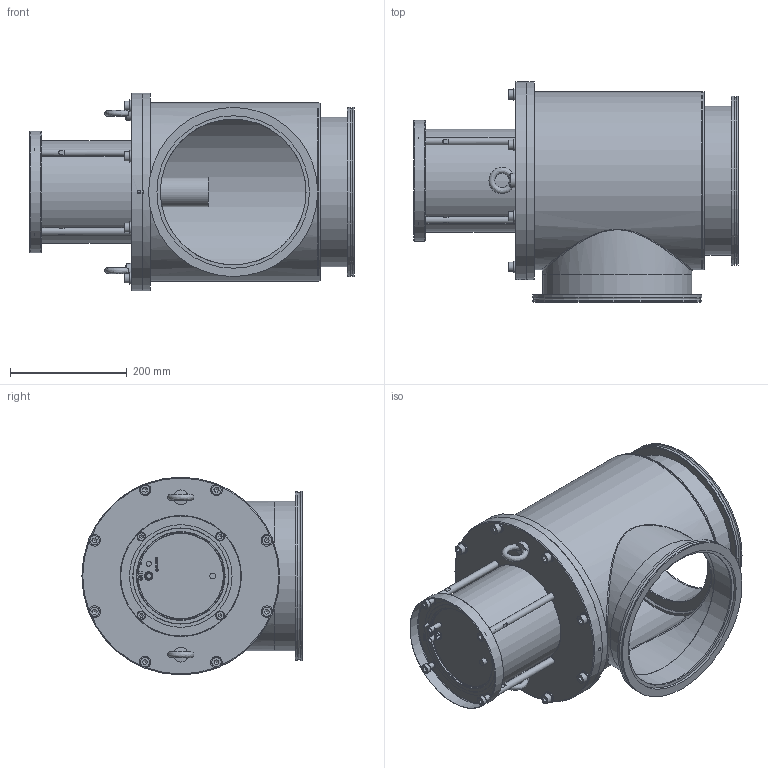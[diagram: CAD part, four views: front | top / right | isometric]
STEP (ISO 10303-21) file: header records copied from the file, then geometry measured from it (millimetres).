
FILE_DESCRIPTION(/* description */ (''),/* implementation_level */ '2;1');
FILE_NAME(/* name */ '1105203815_203.stp',/* time_stamp */ '2019-04-08T07:34:10+02:00',/* author */ (''),/* organization */ (''),/* preprocessor_version */ 'ST-DEVELOPER v16',/* originating_system */ 'SIEMENS PLM Software NX 11.0',/* authorisation */ '');
FILE_SCHEMA (('AP203_CONFIGURATION_CONTROLLED_3D_DESIGN_OF_MECHANICAL_PARTS_AND_ASSEMBLIES_MIM_LF { 1 0 10303 403 2 1 2}'));
Length unit declared in the file: millimetre
Products named in the file (17): 499057; 499005; 499031; 499053; 499064; 499042; 377229; 439333; 439305; 714822; n-6131-415.1; 395410; n-6033-005.1; 224833.1; 498998; 498993_MODEL; 791433
Assembly tree (38 placements, depth 4):
  791433
    224833.1  x4
    n-6033-005.1  x2
    395410  x8
    n-6131-415.1  x8
    498993_MODEL
      498998
        499042
        499064
        499053
        499031  x2
        499005
        499057
    714822
    439305
    439333
    377229  x4
Bounding box: 557.2 x 377.5 x 339 mm (x, y, z)
Volume: 5407889 mm3; surface area: 1514254.7 mm2
Topology: 60 solids, 60 shells, 610 faces, 1241 edges, 811 vertices
Faces by surface type: plane 327, cylinder 185, cone 49, torus 26, extrusion 19, bspline 4
Full cylindrical faces by diameter (mm): 4.2 x2, 6 x1, 6.66 x4, 6.7 x4, 6.8 x4, 7.7 x4, 8 x8, 8.36 x8, 8.4 x8, 8.5 x14, 8.566 x2, 9 x4, 10 x22, 10.15 x5, 10.5 x8, 11 x8, 12 x4, 13 x4, 14.55 x1, 15 x4, 16 x8, 20 x8, 25 x2, 26 x1, 28.011 x3, 28.2 x2, 34.4 x2, 50 x1, 151.5 x2, 160.125 x1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
Entity records: 12938 total; most frequent: CARTESIAN_POINT 3600, DIRECTION 1334, ORIENTED_EDGE 1048, EDGE_LOOP 605, AXIS2_PLACEMENT_3D 602, EDGE_CURVE 524, FACE_BOUND 490, VERTEX_POINT 432
